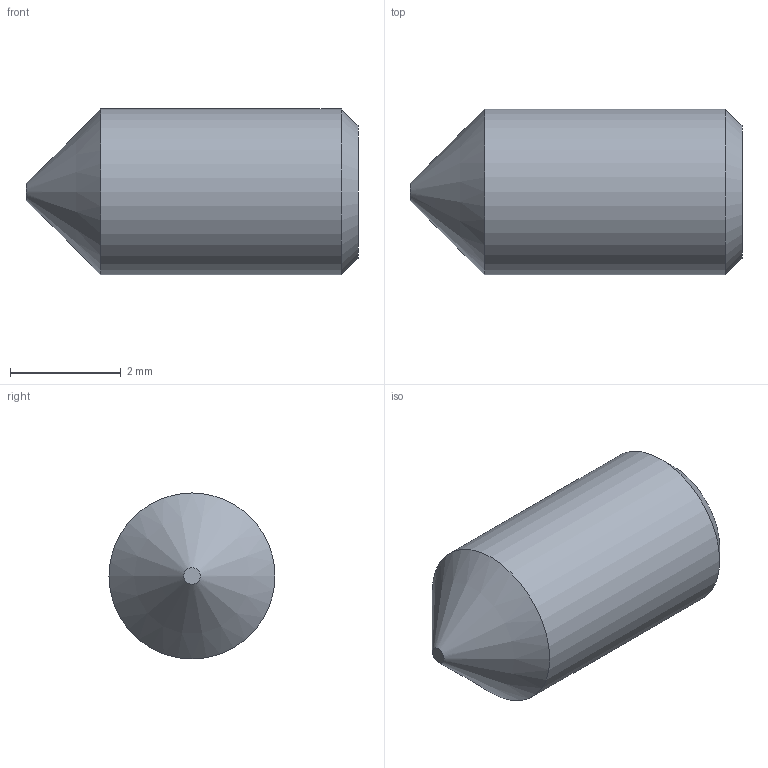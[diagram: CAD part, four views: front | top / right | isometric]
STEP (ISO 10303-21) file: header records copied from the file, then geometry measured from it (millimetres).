
FILE_DESCRIPTION(/* description */ ('6각 소켓 머리 없는 멈춤 나사'),/* implementation_level */ '2;1');
FILE_NAME(/* name */ '',/* time_stamp */ '2026-08-27T17:04:28+09:00',/* author */ ('jhkim'),/* organization */ (''),/* preprocessor_version */ 'ST-DEVELOPER v20.1',/* originating_system */ 'Autodesk Inventor 2027',/* authorisation */ '');
FILE_SCHEMA (('AUTOMOTIVE_DESIGN { 1 0 10303 214 3 1 1 }'));
Length unit declared in the file: millimetre
Products named in the file (1): 멈춤나사 M3
Bounding box: 6 x 3 x 3 mm (x, y, z)
Volume: 31.7 mm3; surface area: 70 mm2
Topology: 1 solids, 1 shells, 12 faces, 29 edges, 19 vertices
Faces by surface type: plane 8, cone 3, cylinder 1
Full cylindrical faces by diameter (mm): 3 x1
Entity records: 383 total; most frequent: CARTESIAN_POINT 72, ORIENTED_EDGE 56, DIRECTION 54, EDGE_CURVE 28, VERTEX_POINT 19, AXIS2_PLACEMENT_3D 19, LINE 16, VECTOR 16
